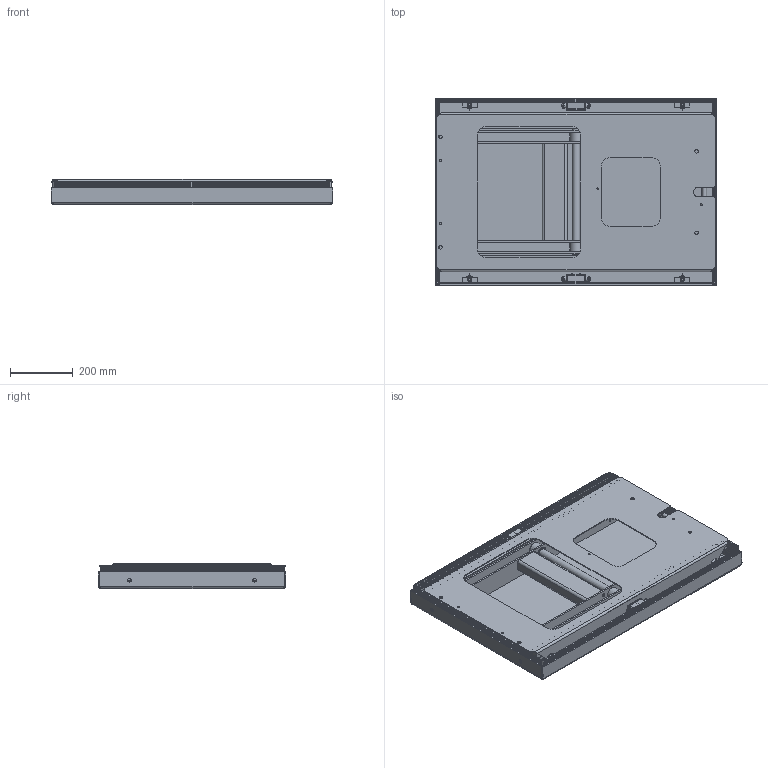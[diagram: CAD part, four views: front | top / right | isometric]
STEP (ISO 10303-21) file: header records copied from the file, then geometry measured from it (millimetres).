
FILE_DESCRIPTION(/* description */ ('Ram'),/* implementation_level */ '2;1');
FILE_NAME(/* name */ 'C:\Autodesk_VaultWork\Ritningar\Exporterade modeller\TCR 500 - (34919)\34919_Botten.stp',/* time_stamp */ '2015-07-03T12:12:04+02:00',/* author */ ('joaed'),/* organization */ (''),/* preprocessor_version */ 'ST-DEVELOPER v15.6',/* originating_system */ 'Autodesk Inventor 2015',/* authorisation */ '');
FILE_SCHEMA (('AUTOMOTIVE_DESIGN { 1 0 10303 214 3 1 1 }'));
Products named in the file (56): 34917; 44717; 44071; 83208; 34916; 515222; 44471; 44702; 80130; 43372; 34918; 42207; 83209; ISO 7050 - ST 4,2 x 25 - C - H; 42207_1; 44718; 44705; 36470; 43821; 44714; 34912; 44704; 44064; 44065; 43822; 43807; 34913; 44068; 82269; 34914; 43056-570; 43056-870; 42330; 43481; ISO 4032 - M8ISO; 33991; 44283; 44280; 44279; 44282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
Assembly tree (105 placements, depth 5):
  34919
    34916
      34917
      44717  x2
      44071  x2
      83208  x2
    34918
      515222
      44471  x2
      44702  x2
      80130  x4
      43372  x2
    42207  x4
    83209  x2
    ISO 7050 - ST 4,2 x 25 - C - H  x8
    44718  x4
      42207_1
    34914
      34912
        44705  x2
        36470
        43821
        44714
      34913
        44704  x2
        44064
        44065  x2
        43822
        43807
      44068
      82269  x4
    35731
      43056-570  x2
      43056-870  x2
      42330  x4
      43481  x4
      ISO 4032 - M8ISO  x4
      33990  x2
        33991
        44283
        44280
        44279
        44282
        ISO 7089 - 5 - 140 HV(1)
        84253
        44281
          44281-1
          ISO 2009 - M4 x 12ISO 7,9
        ISO 4032 - M4ISO
        83928
        44277
        44278
        33992
        ISO 7380 - M4 x 10
      44510  x4
    33508  x2
Bounding box: 900 x 600 x 80 mm (x, y, z)
Volume: 7377407.1 mm3; surface area: 4108911.4 mm2
Topology: 117 solids, 117 shells, 4751 faces, 12669 edges, 8356 vertices
Faces by surface type: plane 2641, cylinder 1280, bspline 518, cone 228, torus 84
Full cylindrical faces by diameter (mm): 0.474 x2, 1 x4, 3 x4, 3.141 x4, 3.2 x4, 3.242 x4, 3.5 x8, 4 x14, 4.2 x8, 4.3 x4, 4.9 x2, 5 x4, 5.2 x6, 5.3 x4, 5.5 x4, 6 x26, 6.5 x2, 6.647 x4, 7.6 x4, 8 x10, 8.376 x2, 8.4 x8, 8.5 x4, 10 x10, 10.5 x8, 11 x6, 11.63 x4, 12 x8, 14 x15, 14.2 x4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
Entity records: 75327 total; most frequent: CARTESIAN_POINT 21026, ORIENTED_EDGE 11238, DIRECTION 10381, EDGE_CURVE 5618, VERTEX_POINT 3794, LINE 3661, VECTOR 3661, AXIS2_PLACEMENT_3D 3360
